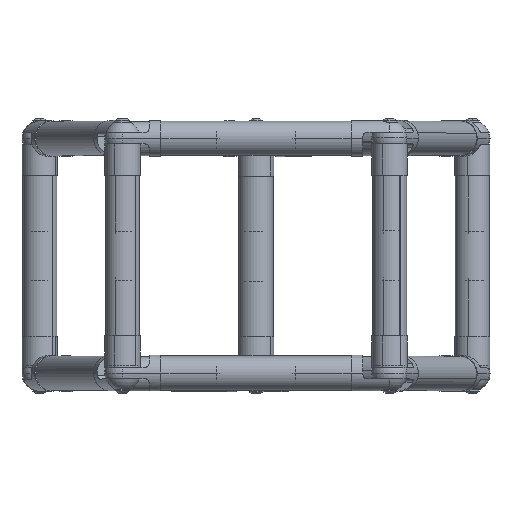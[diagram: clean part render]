
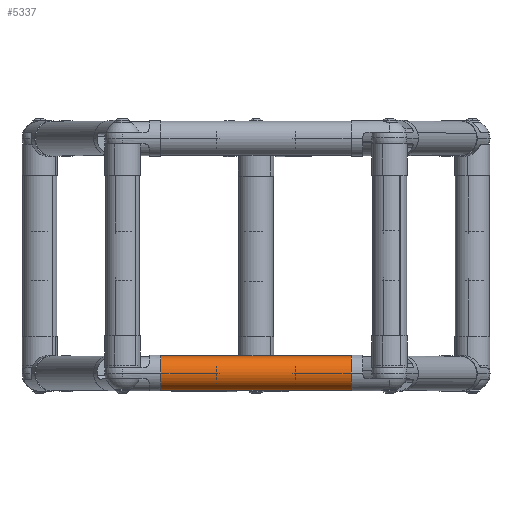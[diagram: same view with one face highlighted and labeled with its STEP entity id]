
A CAD part, top view. The second image highlights one B-rep face of the part: STEP entity #5337.
In plain terms, the highlighted cylindrical face has radius 13.716 mm (diameter 27.432 mm), a partial arc.
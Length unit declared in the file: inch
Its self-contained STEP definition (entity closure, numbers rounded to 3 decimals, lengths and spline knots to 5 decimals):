
#83 = FACE_OUTER_BOUND ( 'NONE', #2369, .T. ) ;
#668 = DIRECTION ( 'NONE',  ( 1., 0., 0. ) ) ;
#1113 = VERTEX_POINT ( 'NONE', #4262 ) ;
#1115 = VECTOR ( 'NONE', #9292, 39.37008 ) ;
#1406 = LINE ( 'NONE', #9256, #8230 ) ;
#2369 = EDGE_LOOP ( 'NONE', ( #10177, #5652, #7118, #6531 ) ) ;
#2393 = EDGE_CURVE ( 'NONE', #10306, #4441, #1406, .T. ) ;
#2421 = EDGE_CURVE ( 'NONE', #10306, #11110, #5846, .T. ) ;
#2744 = AXIS2_PLACEMENT_3D ( 'NONE', #3922, #9133, #9568 ) ;
#2957 = CARTESIAN_POINT ( 'NONE',  ( -6., 0., -0.54 ) ) ;
#3922 = CARTESIAN_POINT ( 'NONE',  ( 0., 0., 0. ) ) ;
#4051 = AXIS2_PLACEMENT_3D ( 'NONE', #5992, #668, #6889 ) ;
#4262 = CARTESIAN_POINT ( 'NONE',  ( 0., 0., -0.54 ) ) ;
#4441 = VERTEX_POINT ( 'NONE', #5329 ) ;
#5329 = CARTESIAN_POINT ( 'NONE',  ( 0., 0., 0.54 ) ) ;
#5337 = ADVANCED_FACE ( 'NONE', ( #83 ), #9002, .T. ) ;
#5652 = ORIENTED_EDGE ( 'NONE', *, *, #2421, .T. ) ;
#5846 = CIRCLE ( 'NONE', #10741, 0.54 ) ;
#5992 = CARTESIAN_POINT ( 'NONE',  ( 0., 0., 0. ) ) ;
#6301 = EDGE_CURVE ( 'NONE', #11110, #1113, #10033, .T. ) ;
#6531 = ORIENTED_EDGE ( 'NONE', *, *, #10126, .F. ) ;
#6875 = CIRCLE ( 'NONE', #4051, 0.54 ) ;
#6889 = DIRECTION ( 'NONE',  ( 0., 0., -1. ) ) ;
#7118 = ORIENTED_EDGE ( 'NONE', *, *, #6301, .T. ) ;
#7943 = CARTESIAN_POINT ( 'NONE',  ( -6., 0., 0.54 ) ) ;
#8230 = VECTOR ( 'NONE', #9233, 39.37008 ) ;
#9002 = CYLINDRICAL_SURFACE ( 'NONE', #2744, 0.54 ) ;
#9133 = DIRECTION ( 'NONE',  ( 1., 0., 0. ) ) ;
#9233 = DIRECTION ( 'NONE',  ( 1., 0., 0. ) ) ;
#9256 = CARTESIAN_POINT ( 'NONE',  ( 0., 0., 0.54 ) ) ;
#9292 = DIRECTION ( 'NONE',  ( 1., 0., 0. ) ) ;
#9302 = CARTESIAN_POINT ( 'NONE',  ( 0., 0., -0.54 ) ) ;
#9453 = CARTESIAN_POINT ( 'NONE',  ( -6., 0., 0. ) ) ;
#9568 = DIRECTION ( 'NONE',  ( 0., 0., -1. ) ) ;
#9964 = DIRECTION ( 'NONE',  ( 0., 0., -1. ) ) ;
#10002 = DIRECTION ( 'NONE',  ( 1., 0., 0. ) ) ;
#10033 = LINE ( 'NONE', #9302, #1115 ) ;
#10126 = EDGE_CURVE ( 'NONE', #4441, #1113, #6875, .T. ) ;
#10177 = ORIENTED_EDGE ( 'NONE', *, *, #2393, .F. ) ;
#10306 = VERTEX_POINT ( 'NONE', #7943 ) ;
#10741 = AXIS2_PLACEMENT_3D ( 'NONE', #9453, #10002, #9964 ) ;
#11110 = VERTEX_POINT ( 'NONE', #2957 ) ;
